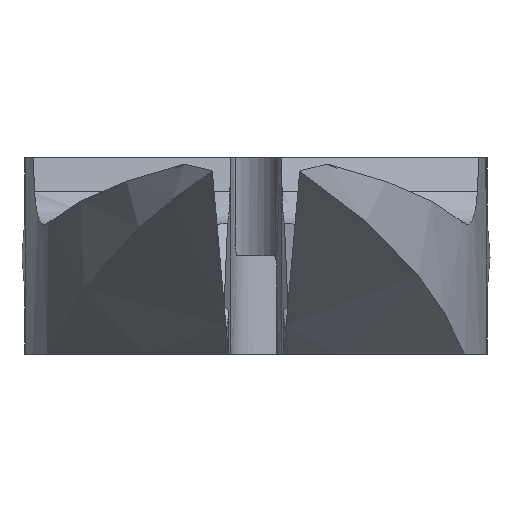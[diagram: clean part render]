
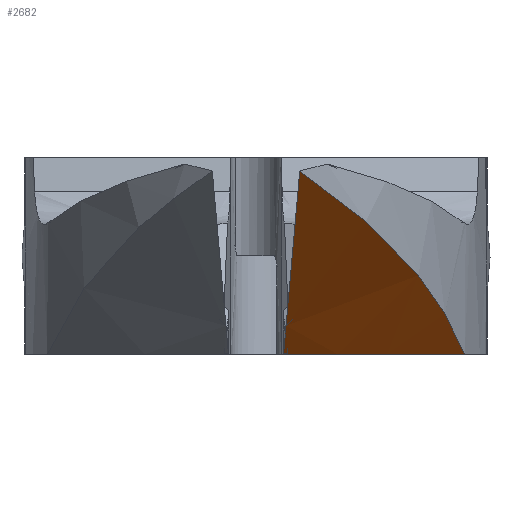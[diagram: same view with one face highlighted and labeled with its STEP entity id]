
A CAD part, left-side view. The second image highlights one B-rep face of the part: STEP entity #2682.
In plain terms, the highlighted cylindrical face has radius 45 mm (diameter 90 mm), a partial arc.
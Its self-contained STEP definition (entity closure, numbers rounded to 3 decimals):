
#115 = CARTESIAN_POINT ( 'NONE',  ( -20.901, -5.787, 3.759 ) ) ;
#221 = CARTESIAN_POINT ( 'NONE',  ( -17.041, -0.2, 0.035 ) ) ;
#233 = VERTEX_POINT ( 'NONE', #1589 ) ;
#293 = CARTESIAN_POINT ( 'NONE',  ( -16.999, -0.2, 0. ) ) ;
#324 = DIRECTION ( 'NONE',  ( 0.766, 0., -0.643 ) ) ;
#390 = EDGE_LOOP ( 'NONE', ( #1633, #854, #4030, #1978, #3084, #4700 ) ) ;
#514 = CARTESIAN_POINT ( 'NONE',  ( -19.403, -6.714, 2.673 ) ) ;
#647 = VECTOR ( 'NONE', #324, 1000. ) ;
#706 = CARTESIAN_POINT ( 'NONE',  ( -18.556, 0., 1.306 ) ) ;
#754 = CARTESIAN_POINT ( 'NONE',  ( -17.041, -0.2, 0.035 ) ) ;
#806 = LINE ( 'NONE', #3515, #4729 ) ;
#854 = ORIENTED_EDGE ( 'NONE', *, *, #3563, .T. ) ;
#900 = CARTESIAN_POINT ( 'NONE',  ( -16.829, -8.015, 0.793 ) ) ;
#947 = LINE ( 'NONE', #3648, #3846 ) ;
#980 = EDGE_CURVE ( 'NONE', #3226, #2533, #947, .T. ) ;
#982 = CARTESIAN_POINT ( 'NONE',  ( -15.766, -8.413, 0. ) ) ;
#1308 = AXIS2_PLACEMENT_3D ( 'NONE', #4076, #1848, #4062 ) ;
#1448 = CARTESIAN_POINT ( 'NONE',  ( -15.766, -8.413, 0. ) ) ;
#1490 = EDGE_CURVE ( 'NONE', #2533, #2347, #3437, .T. ) ;
#1517 = CARTESIAN_POINT ( 'NONE',  ( -17.041, 0., 0.034 ) ) ;
#1589 = CARTESIAN_POINT ( 'NONE',  ( -16.999, -0.2, 0. ) ) ;
#1633 = ORIENTED_EDGE ( 'NONE', *, *, #1490, .T. ) ;
#1674 =( BOUNDED_CURVE ( )  B_SPLINE_CURVE ( 3, ( #1517, #2661, #3028, #754 ),
 .UNSPECIFIED., .F., .F. ) 
 B_SPLINE_CURVE_WITH_KNOTS ( ( 4, 4 ),
 ( 3.142, 3.146 ),
 .UNSPECIFIED. ) 
 CURVE ( )  GEOMETRIC_REPRESENTATION_ITEM ( )  RATIONAL_B_SPLINE_CURVE ( ( 1., 1., 1., 1. ) ) 
 REPRESENTATION_ITEM ( '' )  );
#1848 = DIRECTION ( 'NONE',  ( -0.766, 0., 0.643 ) ) ;
#1978 = ORIENTED_EDGE ( 'NONE', *, *, #3409, .F. ) ;
#2318 = EDGE_CURVE ( 'NONE', #3226, #3796, #4273, .T. ) ;
#2347 = VERTEX_POINT ( 'NONE', #4307 ) ;
#2431 = CARTESIAN_POINT ( 'NONE',  ( -21.392, -5.451, 4.116 ) ) ;
#2533 = VERTEX_POINT ( 'NONE', #706 ) ;
#2535 = CARTESIAN_POINT ( 'NONE',  ( -21.638, 0., 3.892 ) ) ;
#2600 = CARTESIAN_POINT ( 'NONE',  ( -16.98, -2.958, 0. ) ) ;
#2620 = FACE_OUTER_BOUND ( 'NONE', #390, .T. ) ;
#2661 = CARTESIAN_POINT ( 'NONE',  ( -17.041, -0.067, 0.034 ) ) ;
#2682 = ADVANCED_FACE ( 'NONE', ( #2620 ), #4506, .T. ) ;
#2802 = CARTESIAN_POINT ( 'NONE',  ( -19.907, -6.419, 3.038 ) ) ;
#3028 = CARTESIAN_POINT ( 'NONE',  ( -17.041, -0.133, 0.034 ) ) ;
#3084 = ORIENTED_EDGE ( 'NONE', *, *, #2318, .F. ) ;
#3175 = CARTESIAN_POINT ( 'NONE',  ( -27., 0., 8.391 ) ) ;
#3177 = CARTESIAN_POINT ( 'NONE',  ( -17.873, -7.542, 1.559 ) ) ;
#3226 = VERTEX_POINT ( 'NONE', #3175 ) ;
#3335 = VERTEX_POINT ( 'NONE', #221 ) ;
#3409 = EDGE_CURVE ( 'NONE', #3796, #233, #3855, .T. ) ;
#3437 = LINE ( 'NONE', #2535, #647 ) ;
#3515 = CARTESIAN_POINT ( 'NONE',  ( -16.999, -0.2, 0. ) ) ;
#3536 = CARTESIAN_POINT ( 'NONE',  ( -25.515, -1.981, 7.145 ) ) ;
#3555 = CARTESIAN_POINT ( 'NONE',  ( -15.766, -8.413, 0. ) ) ;
#3563 = EDGE_CURVE ( 'NONE', #2347, #3335, #1674, .T. ) ;
#3648 = CARTESIAN_POINT ( 'NONE',  ( -21.638, 0., 3.892 ) ) ;
#3663 = DIRECTION ( 'NONE',  ( 0.766, 0., -0.643 ) ) ;
#3796 = VERTEX_POINT ( 'NONE', #982 ) ;
#3846 = VECTOR ( 'NONE', #3663, 1000. ) ;
#3855 =( BOUNDED_CURVE ( )  B_SPLINE_CURVE ( 3, ( #1448, #4479, #2600, #293 ),
 .UNSPECIFIED., .F., .T. ) 
 B_SPLINE_CURVE_WITH_KNOTS ( ( 4, 4 ),
 ( 6.095, 6.279 ),
 .UNSPECIFIED. ) 
 CURVE ( )  GEOMETRIC_REPRESENTATION_ITEM ( )  RATIONAL_B_SPLINE_CURVE ( ( 1., 0.997, 0.997, 1. ) ) 
 REPRESENTATION_ITEM ( '' )  );
#3887 = DIRECTION ( 'NONE',  ( -0.766, 0., 0.643 ) ) ;
#3911 = CARTESIAN_POINT ( 'NONE',  ( -23.786, -3.679, 5.861 ) ) ;
#3924 = EDGE_CURVE ( 'NONE', #233, #3335, #806, .T. ) ;
#4030 = ORIENTED_EDGE ( 'NONE', *, *, #3924, .F. ) ;
#4062 = DIRECTION ( 'NONE',  ( 0.643, 0., 0.766 ) ) ;
#4076 = CARTESIAN_POINT ( 'NONE',  ( 12.714, 0., 33.81 ) ) ;
#4273 = B_SPLINE_CURVE_WITH_KNOTS ( 'NONE', 3,
 ( #4689, #3536, #3911, #2431, #115, #2802, #514, #3177, #900, #3555 ),
 .UNSPECIFIED., .F., .F.,
 ( 4, 2, 2, 2, 4 ),
 ( 0., 0.008, 0.01, 0.012, 0.016 ),
 .UNSPECIFIED. ) ;
#4307 = CARTESIAN_POINT ( 'NONE',  ( -17.041, 0., 0.034 ) ) ;
#4479 = CARTESIAN_POINT ( 'NONE',  ( -16.568, -5.703, 0. ) ) ;
#4506 = CYLINDRICAL_SURFACE ( 'NONE', #1308, 45. ) ;
#4689 = CARTESIAN_POINT ( 'NONE',  ( -27., 0., 8.391 ) ) ;
#4700 = ORIENTED_EDGE ( 'NONE', *, *, #980, .T. ) ;
#4729 = VECTOR ( 'NONE', #3887, 1000. ) ;
